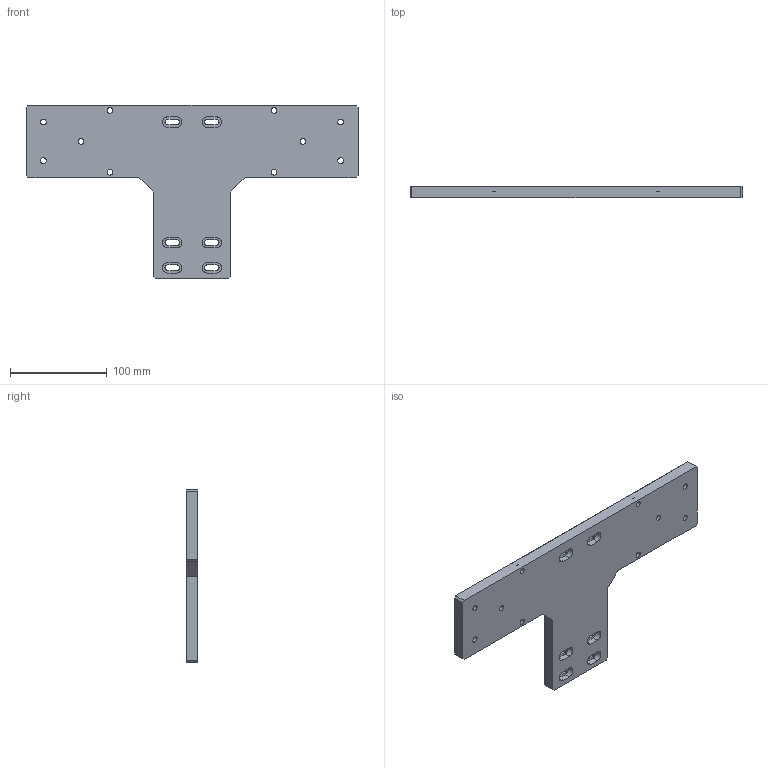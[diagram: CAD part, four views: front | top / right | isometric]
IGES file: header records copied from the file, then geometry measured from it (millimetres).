
Start section:  PTC IGES file: n80-n80m-st.igs
Global section: file name: n80-n80m-st.igs; native system: Pro/ENGINEER by Parametric Technology Corporation; preprocessor: 2008230; author: Owner; organization: Unknown; date: 20121212.092315; units: millimetre
Bounding box: 344 x 12 x 180 mm (x, y, z)
Surface area: 85977 mm2 (no closed solid volume)
Topology: 0 solids, 0 shells, 122 faces, 640 edges, 638 vertices
Faces by surface type: revolution 64, bspline 58
